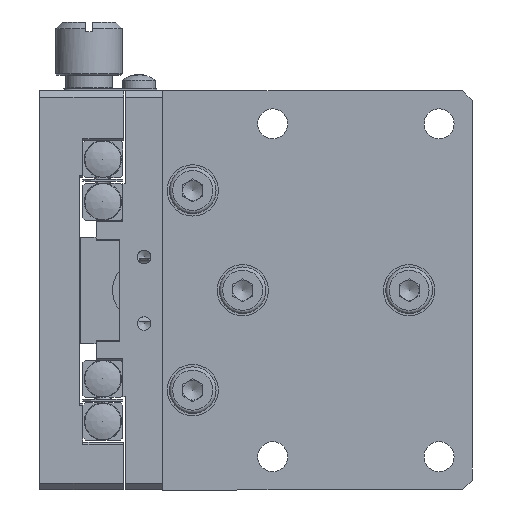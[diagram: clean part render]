
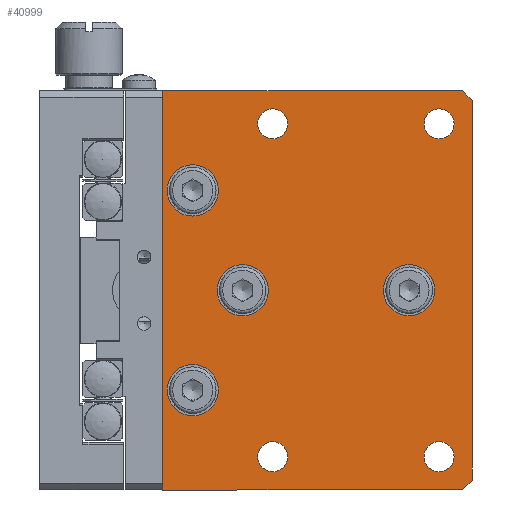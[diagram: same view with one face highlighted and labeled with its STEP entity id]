
A CAD part, front view. The second image highlights one B-rep face of the part: STEP entity #40999.
In plain terms, the highlighted planar face has unit normal (0, -1, 0).
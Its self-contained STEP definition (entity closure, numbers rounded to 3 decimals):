
#153 = ORIENTED_EDGE ( 'NONE', *, *, #48231, .F. ) ;
#649 = AXIS2_PLACEMENT_3D ( 'NONE', #70150, #16949, #22644 ) ;
#1681 = CARTESIAN_POINT ( 'NONE',  ( 11.25, 0., 15. ) ) ;
#2039 = AXIS2_PLACEMENT_3D ( 'NONE', #31614, #18501, #6685 ) ;
#3044 = CARTESIAN_POINT ( 'NONE',  ( 51.75, 0., -30. ) ) ;
#4821 = DIRECTION ( 'NONE',  ( 0., -1., 0. ) ) ;
#5995 = EDGE_CURVE ( 'NONE', #43349, #58768, #62017, .T. ) ;
#6562 = ORIENTED_EDGE ( 'NONE', *, *, #40897, .F. ) ;
#6685 = DIRECTION ( 'NONE',  ( 0., 0., 1. ) ) ;
#7860 = EDGE_CURVE ( 'NONE', #63859, #73385, #41741, .T. ) ;
#8763 = DIRECTION ( 'NONE',  ( 0., 1., 0. ) ) ;
#9093 = FACE_OUTER_BOUND ( 'NONE', #37044, .T. ) ;
#9643 = DIRECTION ( 'NONE',  ( 0., 0., 1. ) ) ;
#10270 = LINE ( 'NONE', #36471, #57856 ) ;
#11986 = CARTESIAN_POINT ( 'NONE',  ( 53.25, 0., -28.5 ) ) ;
#12495 = VERTEX_POINT ( 'NONE', #80094 ) ;
#13544 = VERTEX_POINT ( 'NONE', #20541 ) ;
#14700 = LINE ( 'NONE', #27357, #30056 ) ;
#16277 = EDGE_CURVE ( 'NONE', #21396, #21396, #16468, .T. ) ;
#16468 = CIRCLE ( 'NONE', #27536, 2.25 ) ;
#16473 = EDGE_CURVE ( 'NONE', #13544, #13544, #72170, .T. ) ;
#16528 = FACE_BOUND ( 'NONE', #22020, .T. ) ;
#16945 = EDGE_LOOP ( 'NONE', ( #58167 ) ) ;
#16949 = DIRECTION ( 'NONE',  ( 0., -1., 0. ) ) ;
#17197 = ORIENTED_EDGE ( 'NONE', *, *, #7860, .F. ) ;
#18003 = CARTESIAN_POINT ( 'NONE',  ( 53.25, 0., 28.5 ) ) ;
#18501 = DIRECTION ( 'NONE',  ( 0., 1., 0. ) ) ;
#18591 = EDGE_LOOP ( 'NONE', ( #64059 ) ) ;
#18596 = CIRCLE ( 'NONE', #78706, 3.85 ) ;
#19060 = VERTEX_POINT ( 'NONE', #52606 ) ;
#19511 = CARTESIAN_POINT ( 'NONE',  ( 43.75, 0., 0. ) ) ;
#20115 = CARTESIAN_POINT ( 'NONE',  ( 6.75, 0., 30. ) ) ;
#20541 = CARTESIAN_POINT ( 'NONE',  ( 23.25, 0., -22.75 ) ) ;
#21016 = CARTESIAN_POINT ( 'NONE',  ( 48.25, 0., 25. ) ) ;
#21396 = VERTEX_POINT ( 'NONE', #66338 ) ;
#21676 = VECTOR ( 'NONE', #45523, 1000. ) ;
#22020 = EDGE_LOOP ( 'NONE', ( #153 ) ) ;
#22396 = CARTESIAN_POINT ( 'NONE',  ( 48.25, 0., -22.75 ) ) ;
#22644 = DIRECTION ( 'NONE',  ( 0., 0., -1. ) ) ;
#22748 = EDGE_CURVE ( 'NONE', #38339, #38339, #23023, .T. ) ;
#22805 = EDGE_LOOP ( 'NONE', ( #55548 ) ) ;
#23023 = CIRCLE ( 'NONE', #57824, 3.85 ) ;
#23066 = FACE_BOUND ( 'NONE', #18591, .T. ) ;
#26046 = VECTOR ( 'NONE', #61779, 1000. ) ;
#27135 = CIRCLE ( 'NONE', #34116, 2.25 ) ;
#27357 = CARTESIAN_POINT ( 'NONE',  ( 53.25, 0., -30. ) ) ;
#27536 = AXIS2_PLACEMENT_3D ( 'NONE', #42033, #29812, #82613 ) ;
#28858 = CIRCLE ( 'NONE', #44147, 3.85 ) ;
#29812 = DIRECTION ( 'NONE',  ( 0., 1., 0. ) ) ;
#30056 = VECTOR ( 'NONE', #67928, 1000. ) ;
#30204 = ORIENTED_EDGE ( 'NONE', *, *, #40678, .T. ) ;
#31614 = CARTESIAN_POINT ( 'NONE',  ( 48.25, 0., -25. ) ) ;
#32442 = EDGE_CURVE ( 'NONE', #61495, #63859, #10270, .T. ) ;
#34116 = AXIS2_PLACEMENT_3D ( 'NONE', #21016, #47570, #61118 ) ;
#34286 = LINE ( 'NONE', #60011, #74516 ) ;
#34511 = CARTESIAN_POINT ( 'NONE',  ( 51.75, 0., 30. ) ) ;
#36471 = CARTESIAN_POINT ( 'NONE',  ( 53.25, 0., -30. ) ) ;
#36895 = DIRECTION ( 'NONE',  ( -1., 0., 0. ) ) ;
#37044 = EDGE_LOOP ( 'NONE', ( #49945, #43129, #67395, #85654, #53479, #17197 ) ) ;
#37533 = EDGE_CURVE ( 'NONE', #61495, #40588, #34286, .T. ) ;
#38339 = VERTEX_POINT ( 'NONE', #64528 ) ;
#38679 = AXIS2_PLACEMENT_3D ( 'NONE', #55856, #8763, #9643 ) ;
#39134 = CARTESIAN_POINT ( 'NONE',  ( 11.25, 0., -15. ) ) ;
#39495 = EDGE_CURVE ( 'NONE', #73385, #58768, #66016, .T. ) ;
#40588 = VERTEX_POINT ( 'NONE', #11986 ) ;
#40678 = EDGE_CURVE ( 'NONE', #19060, #19060, #27135, .T. ) ;
#40897 = EDGE_CURVE ( 'NONE', #12495, #12495, #18596, .T. ) ;
#40999 = ADVANCED_FACE ( 'NONE', ( #68869, #16528, #75018, #48343, #56178, #23066, #55751, #76307, #9093 ), #43110, .T. ) ;
#41741 = LINE ( 'NONE', #68349, #26046 ) ;
#42033 = CARTESIAN_POINT ( 'NONE',  ( 23.25, 0., 25. ) ) ;
#43110 = PLANE ( 'NONE',  #649 ) ;
#43129 = ORIENTED_EDGE ( 'NONE', *, *, #37533, .T. ) ;
#43349 = VERTEX_POINT ( 'NONE', #18003 ) ;
#44147 = AXIS2_PLACEMENT_3D ( 'NONE', #39134, #65338, #64893 ) ;
#45523 = DIRECTION ( 'NONE',  ( 1., 0., 0. ) ) ;
#46079 = DIRECTION ( 'NONE',  ( 0., 0., -1. ) ) ;
#46533 = CIRCLE ( 'NONE', #82790, 3.85 ) ;
#46854 = EDGE_LOOP ( 'NONE', ( #30204 ) ) ;
#47570 = DIRECTION ( 'NONE',  ( 0., 1., 0. ) ) ;
#47604 = ORIENTED_EDGE ( 'NONE', *, *, #22748, .F. ) ;
#48054 = DIRECTION ( 'NONE',  ( -0.707, 0., 0.707 ) ) ;
#48231 = EDGE_CURVE ( 'NONE', #49055, #49055, #46533, .T. ) ;
#48343 = FACE_BOUND ( 'NONE', #22805, .T. ) ;
#49055 = VERTEX_POINT ( 'NONE', #67869 ) ;
#49190 = EDGE_LOOP ( 'NONE', ( #6562 ) ) ;
#49945 = ORIENTED_EDGE ( 'NONE', *, *, #32442, .F. ) ;
#51201 = EDGE_CURVE ( 'NONE', #43349, #40588, #14700, .T. ) ;
#52511 = VERTEX_POINT ( 'NONE', #86135 ) ;
#52606 = CARTESIAN_POINT ( 'NONE',  ( 48.25, 0., 22.75 ) ) ;
#53479 = ORIENTED_EDGE ( 'NONE', *, *, #39495, .F. ) ;
#54872 = DIRECTION ( 'NONE',  ( 0., -1., 0. ) ) ;
#55548 = ORIENTED_EDGE ( 'NONE', *, *, #56532, .F. ) ;
#55751 = FACE_BOUND ( 'NONE', #46854, .T. ) ;
#55856 = CARTESIAN_POINT ( 'NONE',  ( 23.25, 0., -25. ) ) ;
#56178 = FACE_BOUND ( 'NONE', #84926, .T. ) ;
#56414 = CIRCLE ( 'NONE', #2039, 2.25 ) ;
#56419 = EDGE_LOOP ( 'NONE', ( #47604 ) ) ;
#56532 = EDGE_CURVE ( 'NONE', #52511, #52511, #28858, .T. ) ;
#57824 = AXIS2_PLACEMENT_3D ( 'NONE', #58894, #4821, #85521 ) ;
#57856 = VECTOR ( 'NONE', #36895, 1000. ) ;
#58167 = ORIENTED_EDGE ( 'NONE', *, *, #16473, .T. ) ;
#58340 = DIRECTION ( 'NONE',  ( 0., -1., 0. ) ) ;
#58768 = VERTEX_POINT ( 'NONE', #34511 ) ;
#58894 = CARTESIAN_POINT ( 'NONE',  ( 18.75, 0., 0. ) ) ;
#60011 = CARTESIAN_POINT ( 'NONE',  ( 40.875, 0., -40.875 ) ) ;
#60426 = DIRECTION ( 'NONE',  ( 0.707, 0., 0.707 ) ) ;
#60744 = CARTESIAN_POINT ( 'NONE',  ( 53.25, 0., 30. ) ) ;
#61118 = DIRECTION ( 'NONE',  ( 0., 0., -1. ) ) ;
#61200 = VERTEX_POINT ( 'NONE', #22396 ) ;
#61495 = VERTEX_POINT ( 'NONE', #3044 ) ;
#61779 = DIRECTION ( 'NONE',  ( 0., 0., 1. ) ) ;
#62017 = LINE ( 'NONE', #73848, #69873 ) ;
#63536 = EDGE_CURVE ( 'NONE', #61200, #61200, #56414, .T. ) ;
#63859 = VERTEX_POINT ( 'NONE', #71502 ) ;
#64059 = ORIENTED_EDGE ( 'NONE', *, *, #16277, .T. ) ;
#64528 = CARTESIAN_POINT ( 'NONE',  ( 18.75, 0., -3.85 ) ) ;
#64893 = DIRECTION ( 'NONE',  ( 0., 0., -1. ) ) ;
#65338 = DIRECTION ( 'NONE',  ( 0., -1., 0. ) ) ;
#66016 = LINE ( 'NONE', #60744, #21676 ) ;
#66338 = CARTESIAN_POINT ( 'NONE',  ( 23.25, 0., 22.75 ) ) ;
#67395 = ORIENTED_EDGE ( 'NONE', *, *, #51201, .F. ) ;
#67869 = CARTESIAN_POINT ( 'NONE',  ( 43.75, 0., -3.85 ) ) ;
#67928 = DIRECTION ( 'NONE',  ( 0., 0., -1. ) ) ;
#68349 = CARTESIAN_POINT ( 'NONE',  ( 6.75, 0., -30. ) ) ;
#68869 = FACE_BOUND ( 'NONE', #56419, .T. ) ;
#69873 = VECTOR ( 'NONE', #48054, 1000. ) ;
#70150 = CARTESIAN_POINT ( 'NONE',  ( 0., 0., 0. ) ) ;
#71502 = CARTESIAN_POINT ( 'NONE',  ( 6.75, 0., -30. ) ) ;
#72031 = ORIENTED_EDGE ( 'NONE', *, *, #63536, .T. ) ;
#72170 = CIRCLE ( 'NONE', #38679, 2.25 ) ;
#73385 = VERTEX_POINT ( 'NONE', #20115 ) ;
#73703 = DIRECTION ( 'NONE',  ( 0., 0., -1. ) ) ;
#73848 = CARTESIAN_POINT ( 'NONE',  ( 40.875, 0., 40.875 ) ) ;
#74516 = VECTOR ( 'NONE', #60426, 1000. ) ;
#75018 = FACE_BOUND ( 'NONE', #49190, .T. ) ;
#76307 = FACE_BOUND ( 'NONE', #16945, .T. ) ;
#78706 = AXIS2_PLACEMENT_3D ( 'NONE', #1681, #54872, #73703 ) ;
#80094 = CARTESIAN_POINT ( 'NONE',  ( 11.25, 0., 11.15 ) ) ;
#82613 = DIRECTION ( 'NONE',  ( 0., 0., -1. ) ) ;
#82790 = AXIS2_PLACEMENT_3D ( 'NONE', #19511, #58340, #46079 ) ;
#84926 = EDGE_LOOP ( 'NONE', ( #72031 ) ) ;
#85521 = DIRECTION ( 'NONE',  ( 0., 0., -1. ) ) ;
#85654 = ORIENTED_EDGE ( 'NONE', *, *, #5995, .T. ) ;
#86135 = CARTESIAN_POINT ( 'NONE',  ( 11.25, 0., -18.85 ) ) ;
